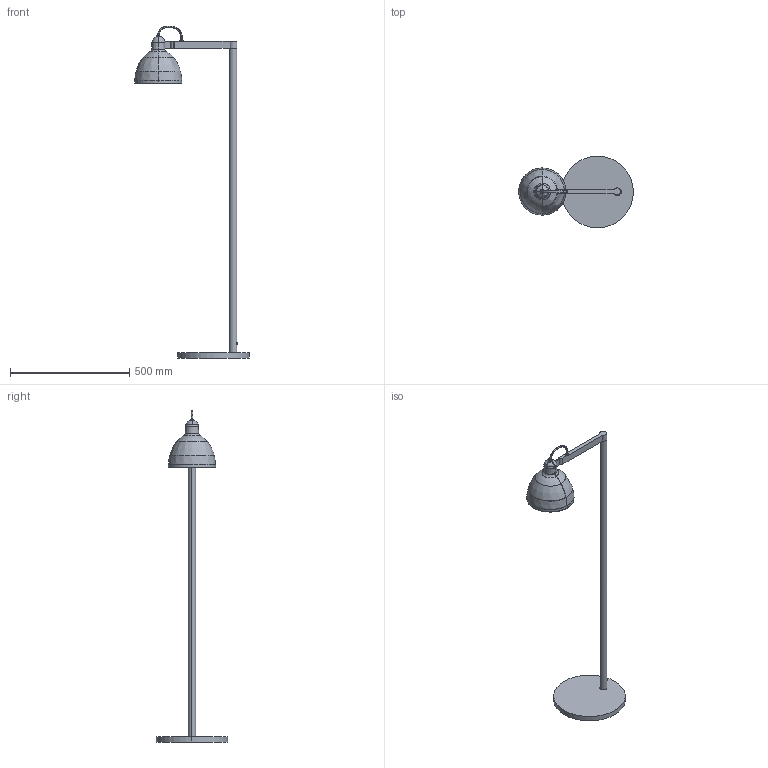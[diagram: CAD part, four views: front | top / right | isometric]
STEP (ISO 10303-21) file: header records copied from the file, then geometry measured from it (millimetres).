
FILE_DESCRIPTION(/* description */ (''),/* implementation_level */ '2;1');
FILE_NAME(/* name */ '64275-115.step',/* time_stamp */ '2024-05-10T10:59:15+02:00',/* author */ ('RenataManzini'),/* organization */ (''),/* preprocessor_version */ 'ST-DEVELOPER v20',/* originating_system */ 'AutoCAD Mechanical',/* authorisation */ '');
FILE_SCHEMA (('AUTOMOTIVE_DESIGN { 1 0 10303 214 3 1 1 }'));
Length unit declared in the file: millimetre
Products named in the file (2): Product; VENICE_PIE_SALON - pieza_62173-626349-_3D_
Assembly tree (1 placements, depth 2):
  Product
    VENICE_PIE_SALON - pieza_62173-626349-_3D_
Bounding box: 480.2 x 300 x 1389.94 mm (x, y, z)
Volume: 2950696.4 mm3; surface area: 674973 mm2
Topology: 8 solids, 8 shells, 204 faces, 464 edges, 275 vertices
Faces by surface type: bspline 58, plane 51, cylinder 39, cone 30, torus 26
Entity records: 9646 total; most frequent: CARTESIAN_POINT 5751, ORIENTED_EDGE 922, DIRECTION 611, EDGE_CURVE 461, VERTEX_POINT 270, AXIS2_PLACEMENT_3D 242, EDGE_LOOP 205, FACE_OUTER_BOUND 204
